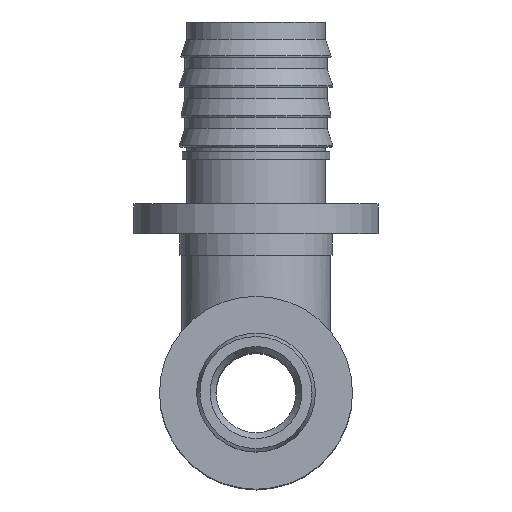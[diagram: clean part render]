
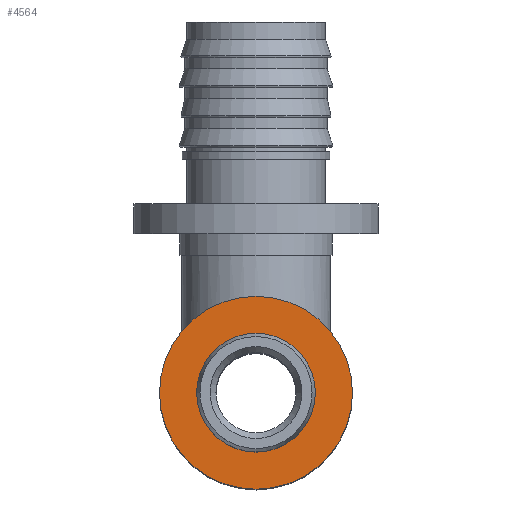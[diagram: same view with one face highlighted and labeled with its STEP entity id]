
A CAD part, top view. The second image highlights one B-rep face of the part: STEP entity #4564.
In plain terms, the highlighted planar face has unit normal (0, 0, 1).
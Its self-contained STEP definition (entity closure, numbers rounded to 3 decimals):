
#187=CIRCLE('',#4888,7.25);
#188=CIRCLE('',#4889,7.25);
#189=CIRCLE('',#4891,13.);
#190=CIRCLE('',#4892,13.);
#283=FACE_BOUND('',#1161,.T.);
#879=FACE_OUTER_BOUND('',#1160,.T.);
#1160=EDGE_LOOP('',(#4044,#4045));
#1161=EDGE_LOOP('',(#4046,#4047));
#2140=VERTEX_POINT('',#10175);
#2141=VERTEX_POINT('',#10176);
#2142=VERTEX_POINT('',#10181);
#2143=VERTEX_POINT('',#10182);
#2800=EDGE_CURVE('',#2140,#2141,#187,.T.);
#2801=EDGE_CURVE('',#2141,#2140,#188,.T.);
#2803=EDGE_CURVE('',#2142,#2143,#189,.T.);
#2804=EDGE_CURVE('',#2143,#2142,#190,.T.);
#4044=ORIENTED_EDGE('',*,*,#2803,.F.);
#4045=ORIENTED_EDGE('',*,*,#2804,.F.);
#4046=ORIENTED_EDGE('',*,*,#2800,.T.);
#4047=ORIENTED_EDGE('',*,*,#2801,.T.);
#4335=PLANE('',#4890);
#4564=ADVANCED_FACE('',(#879,#283),#4335,.T.);
#4888=AXIS2_PLACEMENT_3D('',#10177,#5745,#5746);
#4889=AXIS2_PLACEMENT_3D('',#10178,#5747,#5748);
#4890=AXIS2_PLACEMENT_3D('',#10180,#5750,#5751);
#4891=AXIS2_PLACEMENT_3D('',#10183,#5752,#5753);
#4892=AXIS2_PLACEMENT_3D('',#10184,#5754,#5755);
#5745=DIRECTION('center_axis',(0.,0.,-1.));
#5746=DIRECTION('ref_axis',(1.,0.,0.));
#5747=DIRECTION('center_axis',(0.,0.,-1.));
#5748=DIRECTION('ref_axis',(1.,0.,0.));
#5750=DIRECTION('center_axis',(0.,0.,1.));
#5751=DIRECTION('ref_axis',(1.,0.,0.));
#5752=DIRECTION('center_axis',(0.,0.,-1.));
#5753=DIRECTION('ref_axis',(1.,0.,0.));
#5754=DIRECTION('center_axis',(0.,0.,-1.));
#5755=DIRECTION('ref_axis',(1.,0.,0.));
#10175=CARTESIAN_POINT('',(0.,-7.25,73.5));
#10176=CARTESIAN_POINT('',(0.,7.25,73.5));
#10177=CARTESIAN_POINT('Origin',(0.,0.,73.5));
#10178=CARTESIAN_POINT('Origin',(0.,0.,73.5));
#10180=CARTESIAN_POINT('Origin',(0.,-13.,73.5));
#10181=CARTESIAN_POINT('',(0.,-13.,73.5));
#10182=CARTESIAN_POINT('',(0.,13.,73.5));
#10183=CARTESIAN_POINT('Origin',(0.,0.,73.5));
#10184=CARTESIAN_POINT('Origin',(0.,0.,73.5));
